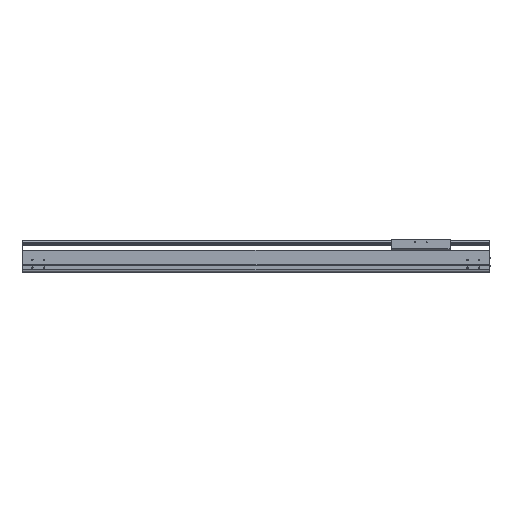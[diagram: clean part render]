
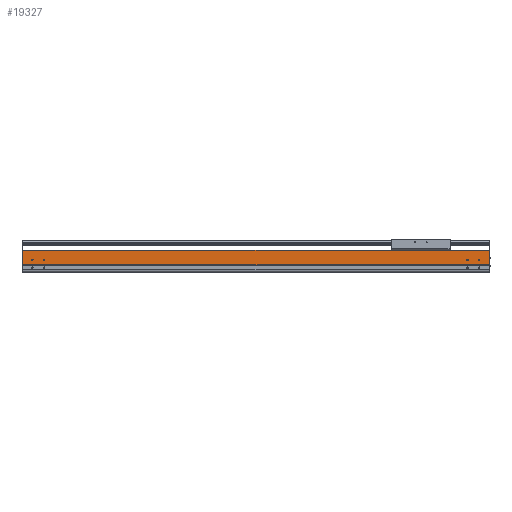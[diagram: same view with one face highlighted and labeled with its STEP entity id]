
A CAD part, top view. The second image highlights one B-rep face of the part: STEP entity #19327.
In plain terms, the highlighted planar face has unit normal (0, 0, 1).
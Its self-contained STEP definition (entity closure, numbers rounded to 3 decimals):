
#3227=DIRECTION('',(1.,0.,0.));
#3228=VECTOR('',#3227,2.);
#3229=CARTESIAN_POINT('',(0.,34.65,107.));
#3230=LINE('',#3229,#3228);
#3235=CARTESIAN_POINT('',(-42.,54.,107.));
#3236=DIRECTION('',(0.,0.,-1.));
#3237=DIRECTION('',(1.,0.,0.));
#3238=AXIS2_PLACEMENT_3D('',#3235,#3236,#3237);
#3240=CARTESIAN_POINT('',(-42.,54.,107.));
#3241=DIRECTION('',(0.,0.,-1.));
#3242=DIRECTION('',(-1.,0.,0.));
#3243=AXIS2_PLACEMENT_3D('',#3240,#3241,#3242);
#3245=CARTESIAN_POINT('',(-92.,54.,107.));
#3246=DIRECTION('',(0.,0.,-1.));
#3247=DIRECTION('',(1.,0.,0.));
#3248=AXIS2_PLACEMENT_3D('',#3245,#3246,#3247);
#3250=CARTESIAN_POINT('',(-92.,54.,107.));
#3251=DIRECTION('',(0.,0.,-1.));
#3252=DIRECTION('',(-1.,0.,0.));
#3253=AXIS2_PLACEMENT_3D('',#3250,#3251,#3252);
#3255=CARTESIAN_POINT('',(-1944.,54.,107.));
#3256=DIRECTION('',(0.,0.,-1.));
#3257=DIRECTION('',(1.,0.,0.));
#3258=AXIS2_PLACEMENT_3D('',#3255,#3256,#3257);
#3260=CARTESIAN_POINT('',(-1944.,54.,107.));
#3261=DIRECTION('',(0.,0.,-1.));
#3262=DIRECTION('',(-1.,0.,0.));
#3263=AXIS2_PLACEMENT_3D('',#3260,#3261,#3262);
#3265=CARTESIAN_POINT('',(-1894.,54.,107.));
#3266=DIRECTION('',(0.,0.,-1.));
#3267=DIRECTION('',(1.,0.,0.));
#3268=AXIS2_PLACEMENT_3D('',#3265,#3266,#3267);
#3270=CARTESIAN_POINT('',(-1894.,54.,107.));
#3271=DIRECTION('',(0.,0.,-1.));
#3272=DIRECTION('',(-1.,0.,0.));
#3273=AXIS2_PLACEMENT_3D('',#3270,#3271,#3272);
#3275=DIRECTION('',(0.,-1.,0.));
#3276=VECTOR('',#3275,2.55);
#3277=CARTESIAN_POINT('',(-1984.,34.65,107.));
#3278=LINE('',#3277,#3276);
#3279=DIRECTION('',(0.,-1.,0.));
#3280=VECTOR('',#3279,58.85);
#3281=CARTESIAN_POINT('',(-1986.,93.5,107.));
#3282=LINE('',#3281,#3280);
#3283=DIRECTION('',(0.,1.,0.));
#3284=VECTOR('',#3283,58.85);
#3285=CARTESIAN_POINT('',(2.,34.65,107.));
#3286=LINE('',#3285,#3284);
#3287=DIRECTION('',(0.,1.,0.));
#3288=VECTOR('',#3287,2.55);
#3289=CARTESIAN_POINT('',(0.,32.1,107.));
#3290=LINE('',#3289,#3288);
#3399=DIRECTION('',(1.,0.,0.));
#3400=VECTOR('',#3399,2.);
#3401=CARTESIAN_POINT('',(-1986.,34.65,107.));
#3402=LINE('',#3401,#3400);
#3411=DIRECTION('',(-1.,0.,0.));
#3412=VECTOR('',#3411,1988.);
#3413=CARTESIAN_POINT('',(2.,93.5,107.));
#3414=LINE('',#3413,#3412);
#11685=DIRECTION('',(1.,0.,0.));
#11686=VECTOR('',#11685,1984.);
#11687=CARTESIAN_POINT('',(-1984.,32.1,107.));
#11688=LINE('',#11687,#11686);
#12993=CARTESIAN_POINT('',(-1986.,34.65,107.));
#12994=VERTEX_POINT('',#12993);
#12995=CARTESIAN_POINT('',(-1986.,93.5,107.));
#12996=VERTEX_POINT('',#12995);
#13217=CARTESIAN_POINT('',(-1984.,32.1,107.));
#13218=VERTEX_POINT('',#13217);
#13289=CARTESIAN_POINT('',(0.,32.1,107.));
#13290=VERTEX_POINT('',#13289);
#13817=CARTESIAN_POINT('',(-39.5,54.,107.));
#13818=CARTESIAN_POINT('',(-44.5,54.,107.));
#13819=VERTEX_POINT('',#13817);
#13820=VERTEX_POINT('',#13818);
#13821=CARTESIAN_POINT('',(-89.5,54.,107.));
#13822=CARTESIAN_POINT('',(-94.5,54.,107.));
#13823=VERTEX_POINT('',#13821);
#13824=VERTEX_POINT('',#13822);
#13825=CARTESIAN_POINT('',(-1941.5,54.,107.));
#13826=CARTESIAN_POINT('',(-1946.5,54.,107.));
#13827=VERTEX_POINT('',#13825);
#13828=VERTEX_POINT('',#13826);
#13829=CARTESIAN_POINT('',(-1891.5,54.,107.));
#13830=CARTESIAN_POINT('',(-1896.5,54.,107.));
#13831=VERTEX_POINT('',#13829);
#13832=VERTEX_POINT('',#13830);
#15094=CARTESIAN_POINT('',(2.,34.65,107.));
#15095=VERTEX_POINT('',#15094);
#15096=CARTESIAN_POINT('',(2.,93.5,107.));
#15097=VERTEX_POINT('',#15096);
#15318=CARTESIAN_POINT('',(0.,34.65,107.));
#15319=VERTEX_POINT('',#15318);
#15630=CARTESIAN_POINT('',(-1984.,34.65,107.));
#15631=VERTEX_POINT('',#15630);
#19285=CARTESIAN_POINT('',(-992.,62.8,107.));
#19286=DIRECTION('',(0.,0.,1.));
#19287=DIRECTION('',(0.,-1.,0.));
#19288=AXIS2_PLACEMENT_3D('',#19285,#19286,#19287);
#19289=PLANE('',#19288);
#19290=ORIENTED_EDGE('',*,*,#16384,.F.);
#19292=ORIENTED_EDGE('',*,*,#19291,.F.);
#19293=ORIENTED_EDGE('',*,*,#17466,.F.);
#19295=ORIENTED_EDGE('',*,*,#19294,.F.);
#19296=ORIENTED_EDGE('',*,*,#19083,.F.);
#19297=ORIENTED_EDGE('',*,*,#19278,.F.);
#19298=ORIENTED_EDGE('',*,*,#16991,.F.);
#19300=ORIENTED_EDGE('',*,*,#19299,.F.);
#19301=EDGE_LOOP('',(#19290,#19292,#19293,#19295,#19296,#19297,#19298,#19300));
#19302=FACE_OUTER_BOUND('',#19301,.F.);
#19304=ORIENTED_EDGE('',*,*,#19303,.F.);
#19306=ORIENTED_EDGE('',*,*,#19305,.F.);
#19307=EDGE_LOOP('',(#19304,#19306));
#19308=FACE_BOUND('',#19307,.F.);
#19310=ORIENTED_EDGE('',*,*,#19309,.F.);
#19312=ORIENTED_EDGE('',*,*,#19311,.F.);
#19313=EDGE_LOOP('',(#19310,#19312));
#19314=FACE_BOUND('',#19313,.F.);
#19316=ORIENTED_EDGE('',*,*,#19315,.F.);
#19318=ORIENTED_EDGE('',*,*,#19317,.F.);
#19319=EDGE_LOOP('',(#19316,#19318));
#19320=FACE_BOUND('',#19319,.F.);
#19322=ORIENTED_EDGE('',*,*,#19321,.F.);
#19324=ORIENTED_EDGE('',*,*,#19323,.F.);
#19325=EDGE_LOOP('',(#19322,#19324));
#19326=FACE_BOUND('',#19325,.F.);
#19327=ADVANCED_FACE('',(#19302,#19308,#19314,#19320,#19326),#19289,.T.);
#3239=CIRCLE('',#3238,2.5);
#3244=CIRCLE('',#3243,2.5);
#3249=CIRCLE('',#3248,2.5);
#3254=CIRCLE('',#3253,2.5);
#3259=CIRCLE('',#3258,2.5);
#3264=CIRCLE('',#3263,2.5);
#3269=CIRCLE('',#3268,2.5);
#3274=CIRCLE('',#3273,2.5);
#16384=EDGE_CURVE('',#15631,#13218,#3278,.T.);
#16991=EDGE_CURVE('',#13290,#15319,#3290,.T.);
#17466=EDGE_CURVE('',#12996,#12994,#3282,.T.);
#19083=EDGE_CURVE('',#15095,#15097,#3286,.T.);
#19278=EDGE_CURVE('',#15319,#15095,#3230,.T.);
#19291=EDGE_CURVE('',#12994,#15631,#3402,.T.);
#19294=EDGE_CURVE('',#15097,#12996,#3414,.T.);
#19299=EDGE_CURVE('',#13218,#13290,#11688,.T.);
#19303=EDGE_CURVE('',#13823,#13824,#3249,.T.);
#19305=EDGE_CURVE('',#13824,#13823,#3254,.T.);
#19309=EDGE_CURVE('',#13827,#13828,#3259,.T.);
#19311=EDGE_CURVE('',#13828,#13827,#3264,.T.);
#19315=EDGE_CURVE('',#13831,#13832,#3269,.T.);
#19317=EDGE_CURVE('',#13832,#13831,#3274,.T.);
#19321=EDGE_CURVE('',#13819,#13820,#3239,.T.);
#19323=EDGE_CURVE('',#13820,#13819,#3244,.T.);
